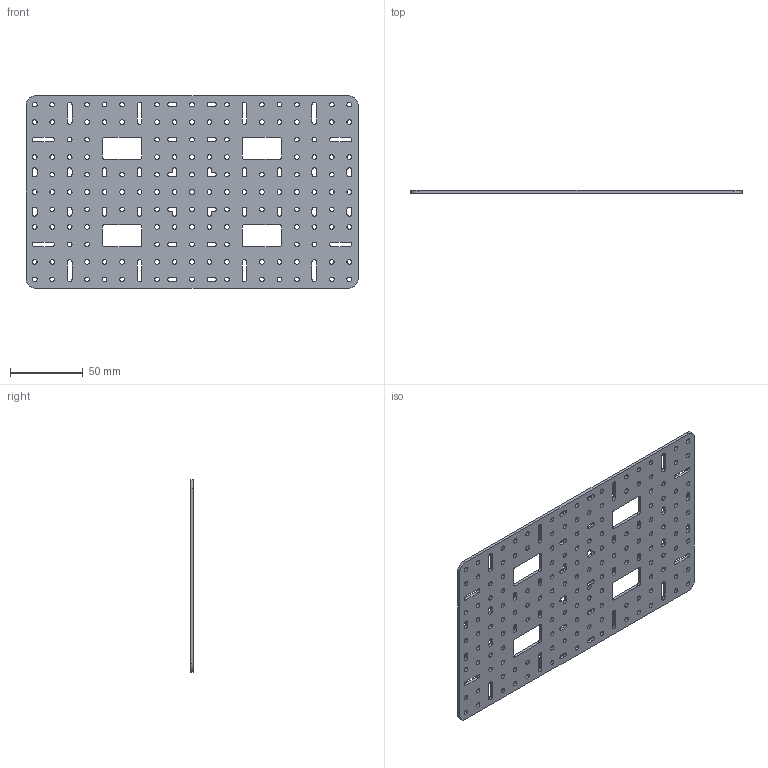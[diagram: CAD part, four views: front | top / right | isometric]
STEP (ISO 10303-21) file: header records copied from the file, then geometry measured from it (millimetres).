
FILE_DESCRIPTION (( 'STEP AP214' ), '1' );
FILE_NAME ('11x19 Plate.STEP', '2024-06-13T10:23:16', ( '' ), ( '' ), 'SwSTEP 2.0', 'SolidWorks 2023', '' );
FILE_SCHEMA (( 'AUTOMOTIVE_DESIGN' ));
Length unit declared in the file: millimetre
Products named in the file (1): 11x19 Plate
Bounding box: 228 x 2 x 132 mm (x, y, z)
Volume: 52526 mm3; surface area: 59034.7 mm2
Topology: 1 solids, 1 shells, 494 faces, 1476 edges, 984 vertices
Faces by surface type: cylinder 384, plane 110
Entity records: 17759 total; most frequent: DIRECTION 3234, CARTESIAN_POINT 2955, ORIENTED_EDGE 2952, EDGE_CURVE 1476, AXIS2_PLACEMENT_3D 1263, VERTEX_POINT 984, EDGE_LOOP 848, CIRCLE 768
